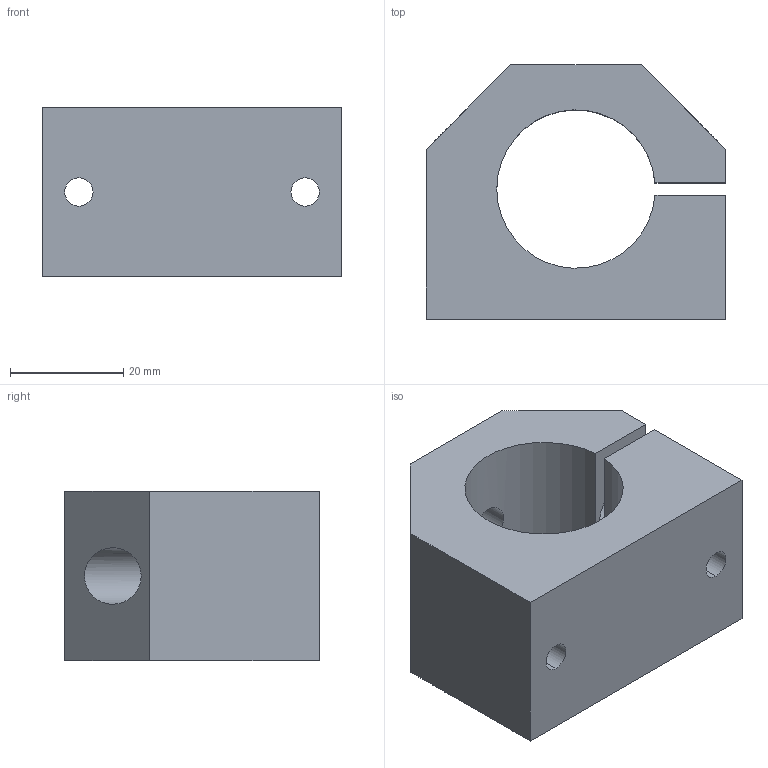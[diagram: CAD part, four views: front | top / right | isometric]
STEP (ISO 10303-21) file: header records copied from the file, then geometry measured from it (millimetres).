
FILE_DESCRIPTION (( 'STEP AP214' ), '1' );
FILE_NAME ('KGCE28 20.step', '2020-03-04T13:08:09', ( '' ), ( '' ), 'SwSTEP 2.0', 'SolidWorks 2019', '' );
FILE_SCHEMA (( 'AUTOMOTIVE_DESIGN' ));
Length unit declared in the file: millimetre
Products named in the file (1): KGCE28 20
Bounding box: 53 x 45 x 30 mm (x, y, z)
Volume: 40894.1 mm3; surface area: 13800.6 mm2
Topology: 1 solids, 1 shells, 41 faces, 104 edges, 66 vertices
Faces by surface type: cylinder 23, plane 14, cone 4
Entity records: 1442 total; most frequent: CARTESIAN_POINT 296, DIRECTION 210, ORIENTED_EDGE 200, EDGE_CURVE 100, AXIS2_PLACEMENT_3D 78, VERTEX_POINT 66, EDGE_LOOP 58, LINE 54
